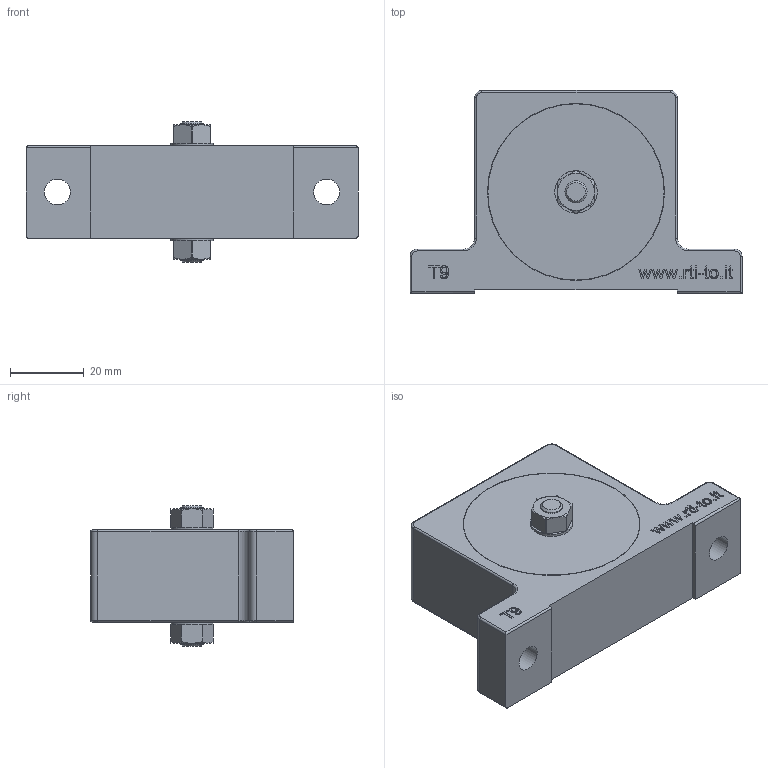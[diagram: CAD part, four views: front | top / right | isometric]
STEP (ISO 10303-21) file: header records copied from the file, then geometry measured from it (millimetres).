
FILE_DESCRIPTION((''),'2;1');
FILE_NAME('D:\UFFICIO TECNICO\PROGETTI PER PROTOTIPI\VIBRATORE - T9\VIBR. T9.stp','2015-09-14T17:52:47',('Piero'),(''),'Autodesk Inventor 2011','Autodesk Inventor 2011','');
FILE_SCHEMA(('CONFIG_CONTROL_DESIGN'));
Length unit declared in the file: millimetre
Products named in the file (1): T9
Bounding box: 90 x 55 x 38 mm (x, y, z)
Volume: 83643.2 mm3; surface area: 16943.8 mm2
Topology: 1 solids, 1 shells, 312 faces, 812 edges, 529 vertices
Faces by surface type: plane 195, cylinder 47, bspline 42, cone 16, torus 12
Full cylindrical faces by diameter (mm): 6 x2, 7 x2, 8.566 x2, 11.5 x2, 47.8 x2, 48 x2
Entity records: 9572 total; most frequent: CARTESIAN_POINT 2239, ORIENTED_EDGE 1572, DIRECTION 1344, EDGE_CURVE 786, VECTOR 550, LINE 550, VERTEX_POINT 519, AXIS2_PLACEMENT_3D 397
